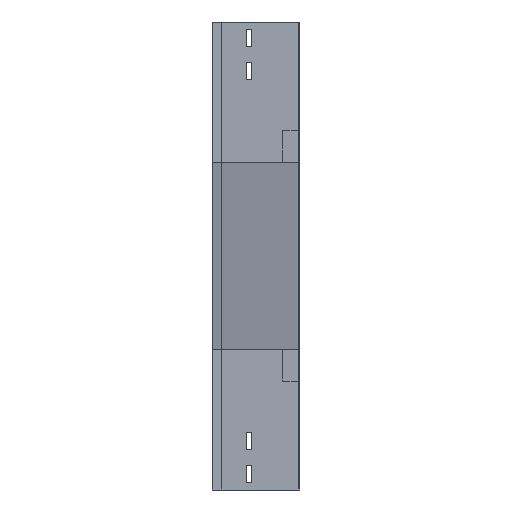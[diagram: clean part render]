
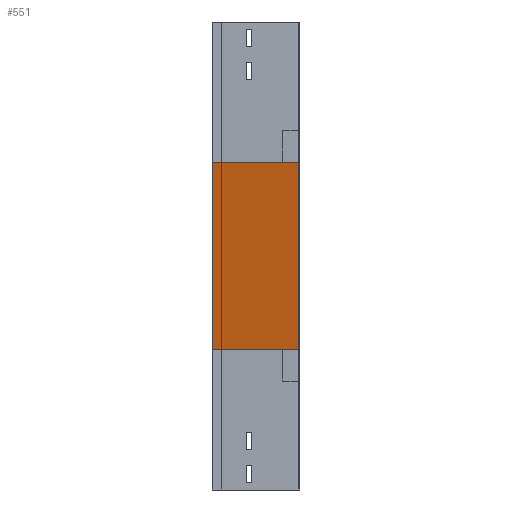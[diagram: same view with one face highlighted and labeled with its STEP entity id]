
A CAD part, left-side view. The second image highlights one B-rep face of the part: STEP entity #551.
In plain terms, the highlighted planar face has unit normal (-0.979, 0, -0.204).
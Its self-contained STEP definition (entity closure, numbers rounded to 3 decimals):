
#23 = VECTOR ( 'NONE', #2453, 1000. ) ;
#112 = CARTESIAN_POINT ( 'NONE',  ( 0., 112.5, -180. ) ) ;
#114 = VERTEX_POINT ( 'NONE', #112 ) ;
#139 = LINE ( 'NONE', #295, #393 ) ;
#220 = EDGE_CURVE ( 'NONE', #114, #1521, #3902, .T. ) ;
#225 = VERTEX_POINT ( 'NONE', #3596 ) ;
#295 = CARTESIAN_POINT ( 'NONE',  ( 0., 112.5, -180. ) ) ;
#313 = DIRECTION ( 'NONE',  ( 0.979, 0., 0.204 ) ) ;
#393 = VECTOR ( 'NONE', #586, 1000. ) ;
#517 = EDGE_CURVE ( 'NONE', #114, #225, #139, .T. ) ;
#551 = ADVANCED_FACE ( 'NONE', ( #903 ), #627, .F. ) ;
#586 = DIRECTION ( 'NONE',  ( 0.204, 0., -0.979 ) ) ;
#627 = PLANE ( 'NONE',  #2885 ) ;
#702 = ORIENTED_EDGE ( 'NONE', *, *, #1386, .F. ) ;
#903 = FACE_OUTER_BOUND ( 'NONE', #1096, .T. ) ;
#1017 = LINE ( 'NONE', #3416, #1430 ) ;
#1096 = EDGE_LOOP ( 'NONE', ( #3915, #2247, #3428, #702 ) ) ;
#1143 = DIRECTION ( 'NONE',  ( 0.204, 0., -0.979 ) ) ;
#1386 = EDGE_CURVE ( 'NONE', #1502, #225, #1017, .T. ) ;
#1430 = VECTOR ( 'NONE', #3718, 1000. ) ;
#1502 = VERTEX_POINT ( 'NONE', #3597 ) ;
#1521 = VERTEX_POINT ( 'NONE', #1715 ) ;
#1715 = CARTESIAN_POINT ( 'NONE',  ( 0., 0., -180. ) ) ;
#1864 = EDGE_CURVE ( 'NONE', #1521, #1502, #2741, .T. ) ;
#2113 = CARTESIAN_POINT ( 'NONE',  ( 0., 0., -180. ) ) ;
#2247 = ORIENTED_EDGE ( 'NONE', *, *, #220, .F. ) ;
#2453 = DIRECTION ( 'NONE',  ( 0.204, 0., -0.979 ) ) ;
#2741 = LINE ( 'NONE', #3331, #23 ) ;
#2885 = AXIS2_PLACEMENT_3D ( 'NONE', #2113, #313, #1143 ) ;
#2995 = DIRECTION ( 'NONE',  ( 0., -1., 0. ) ) ;
#3331 = CARTESIAN_POINT ( 'NONE',  ( 0., 0., -180. ) ) ;
#3416 = CARTESIAN_POINT ( 'NONE',  ( 50., 0., -420. ) ) ;
#3428 = ORIENTED_EDGE ( 'NONE', *, *, #517, .T. ) ;
#3596 = CARTESIAN_POINT ( 'NONE',  ( 50., 112.5, -420. ) ) ;
#3597 = CARTESIAN_POINT ( 'NONE',  ( 50., 0., -420. ) ) ;
#3650 = CARTESIAN_POINT ( 'NONE',  ( 0., 0., -180. ) ) ;
#3718 = DIRECTION ( 'NONE',  ( 0., 1., 0. ) ) ;
#3873 = VECTOR ( 'NONE', #2995, 1000. ) ;
#3902 = LINE ( 'NONE', #3650, #3873 ) ;
#3915 = ORIENTED_EDGE ( 'NONE', *, *, #1864, .F. ) ;
